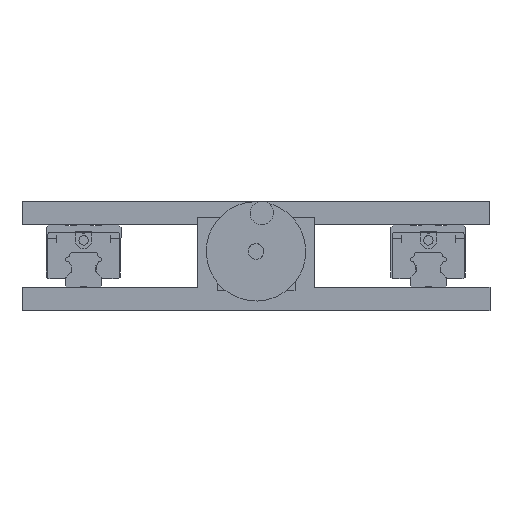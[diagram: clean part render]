
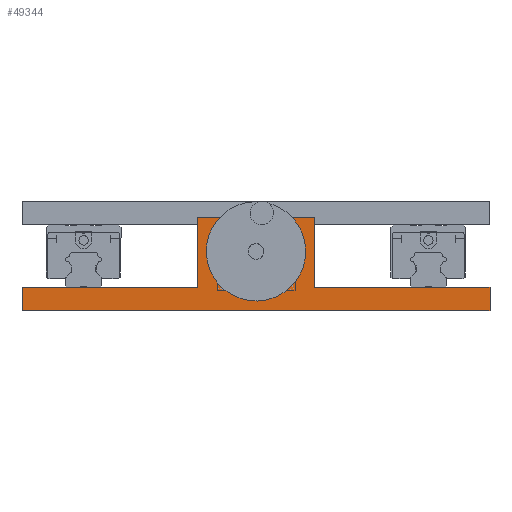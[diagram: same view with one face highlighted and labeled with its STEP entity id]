
A CAD part, front view. The second image highlights one B-rep face of the part: STEP entity #49344.
In plain terms, the highlighted planar face has unit normal (0, -1, 0).
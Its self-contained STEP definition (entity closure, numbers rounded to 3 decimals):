
#1210 = VECTOR ( 'NONE', #71519, 1000. ) ;
#1322 = VERTEX_POINT ( 'NONE', #2750 ) ;
#2750 = CARTESIAN_POINT ( 'NONE',  ( -150., -766.5, 15. ) ) ;
#3196 = AXIS2_PLACEMENT_3D ( 'NONE', #79654, #55064, #36056 ) ;
#3890 = DIRECTION ( 'NONE',  ( 0., 0., -1. ) ) ;
#5827 = EDGE_CURVE ( 'NONE', #1322, #76255, #12501, .T. ) ;
#7767 = ORIENTED_EDGE ( 'NONE', *, *, #10124, .F. ) ;
#9996 = CARTESIAN_POINT ( 'NONE',  ( 150., -766.5, 15. ) ) ;
#10124 = EDGE_CURVE ( 'NONE', #61709, #43456, #28256, .T. ) ;
#10243 = VECTOR ( 'NONE', #49462, 1000. ) ;
#10784 = CARTESIAN_POINT ( 'NONE',  ( -150., -766.5, 15. ) ) ;
#11312 = VECTOR ( 'NONE', #40007, 1000. ) ;
#11815 = VECTOR ( 'NONE', #3890, 1000. ) ;
#12501 = LINE ( 'NONE', #63637, #22404 ) ;
#12634 = VERTEX_POINT ( 'NONE', #66357 ) ;
#13929 = VECTOR ( 'NONE', #35284, 1000. ) ;
#14435 = CARTESIAN_POINT ( 'NONE',  ( 0., -766.5, 38. ) ) ;
#15072 = ORIENTED_EDGE ( 'NONE', *, *, #73457, .F. ) ;
#15170 = CARTESIAN_POINT ( 'NONE',  ( -150., -766.5, 0. ) ) ;
#16359 = VECTOR ( 'NONE', #68357, 1000. ) ;
#19518 = CARTESIAN_POINT ( 'NONE',  ( 150., -766.5, 15. ) ) ;
#19761 = CIRCLE ( 'NONE', #76611, 5. ) ;
#19776 = ORIENTED_EDGE ( 'NONE', *, *, #78251, .F. ) ;
#20257 = EDGE_LOOP ( 'NONE', ( #19776, #78768 ) ) ;
#21979 = FACE_OUTER_BOUND ( 'NONE', #71515, .T. ) ;
#22404 = VECTOR ( 'NONE', #63117, 1000. ) ;
#22422 = CARTESIAN_POINT ( 'NONE',  ( -150., -766.5, 15. ) ) ;
#22965 = DIRECTION ( 'NONE',  ( 1., 0., 0. ) ) ;
#24117 = LINE ( 'NONE', #50260, #10243 ) ;
#24859 = EDGE_CURVE ( 'NONE', #75430, #74891, #26570, .T. ) ;
#25190 = LINE ( 'NONE', #78121, #11312 ) ;
#26010 = VERTEX_POINT ( 'NONE', #44087 ) ;
#26361 = CARTESIAN_POINT ( 'NONE',  ( -37.5, -766.5, 15. ) ) ;
#26570 = CIRCLE ( 'NONE', #3196, 5. ) ;
#26691 = CARTESIAN_POINT ( 'NONE',  ( 0., -766.5, 33. ) ) ;
#26962 = VECTOR ( 'NONE', #22965, 1000. ) ;
#28160 = CARTESIAN_POINT ( 'NONE',  ( -150., -766.5, 0. ) ) ;
#28256 = LINE ( 'NONE', #61486, #16359 ) ;
#28964 = CARTESIAN_POINT ( 'NONE',  ( -37.5, -766.5, 60. ) ) ;
#35284 = DIRECTION ( 'NONE',  ( 1., 0., 0. ) ) ;
#36056 = DIRECTION ( 'NONE',  ( 0., 0., 1. ) ) ;
#39318 = ORIENTED_EDGE ( 'NONE', *, *, #63155, .F. ) ;
#39828 = DIRECTION ( 'NONE',  ( 0., -1., 0. ) ) ;
#40007 = DIRECTION ( 'NONE',  ( 0., 0., -1. ) ) ;
#40363 = DIRECTION ( 'NONE',  ( 0., 0., 1. ) ) ;
#40643 = DIRECTION ( 'NONE',  ( 0., 1., 0. ) ) ;
#41453 = LINE ( 'NONE', #9996, #11815 ) ;
#43456 = VERTEX_POINT ( 'NONE', #44453 ) ;
#43688 = VERTEX_POINT ( 'NONE', #15170 ) ;
#44087 = CARTESIAN_POINT ( 'NONE',  ( -37.5, -766.5, 60. ) ) ;
#44124 = CARTESIAN_POINT ( 'NONE',  ( 0., -766.5, 43. ) ) ;
#44453 = CARTESIAN_POINT ( 'NONE',  ( 37.5, -766.5, 15. ) ) ;
#47514 = LINE ( 'NONE', #28964, #13929 ) ;
#49344 = ADVANCED_FACE ( 'NONE', ( #59529, #21979 ), #72990, .F. ) ;
#49462 = DIRECTION ( 'NONE',  ( 0., 0., -1. ) ) ;
#50025 = CARTESIAN_POINT ( 'NONE',  ( 37.5, -766.5, 60. ) ) ;
#50260 = CARTESIAN_POINT ( 'NONE',  ( -150., -766.5, 15. ) ) ;
#50453 = VERTEX_POINT ( 'NONE', #19518 ) ;
#54977 = ORIENTED_EDGE ( 'NONE', *, *, #58161, .T. ) ;
#55064 = DIRECTION ( 'NONE',  ( 0., -1., 0. ) ) ;
#55731 = ORIENTED_EDGE ( 'NONE', *, *, #59474, .F. ) ;
#56563 = ORIENTED_EDGE ( 'NONE', *, *, #5827, .F. ) ;
#58161 = EDGE_CURVE ( 'NONE', #43688, #12634, #73391, .T. ) ;
#58627 = DIRECTION ( 'NONE',  ( 0., 0., 1. ) ) ;
#59474 = EDGE_CURVE ( 'NONE', #43456, #50453, #60573, .T. ) ;
#59529 = FACE_BOUND ( 'NONE', #20257, .T. ) ;
#60573 = LINE ( 'NONE', #10784, #26962 ) ;
#61486 = CARTESIAN_POINT ( 'NONE',  ( 37.5, -766.5, 60. ) ) ;
#61709 = VERTEX_POINT ( 'NONE', #50025 ) ;
#61903 = AXIS2_PLACEMENT_3D ( 'NONE', #22422, #40643, #40363 ) ;
#62386 = EDGE_CURVE ( 'NONE', #26010, #76255, #25190, .T. ) ;
#63117 = DIRECTION ( 'NONE',  ( 1., 0., 0. ) ) ;
#63155 = EDGE_CURVE ( 'NONE', #50453, #12634, #41453, .T. ) ;
#63637 = CARTESIAN_POINT ( 'NONE',  ( -150., -766.5, 15. ) ) ;
#66357 = CARTESIAN_POINT ( 'NONE',  ( 150., -766.5, 0. ) ) ;
#67727 = ORIENTED_EDGE ( 'NONE', *, *, #62386, .T. ) ;
#68357 = DIRECTION ( 'NONE',  ( 0., 0., -1. ) ) ;
#68756 = ORIENTED_EDGE ( 'NONE', *, *, #72248, .T. ) ;
#71515 = EDGE_LOOP ( 'NONE', ( #54977, #39318, #55731, #7767, #15072, #67727, #56563, #68756 ) ) ;
#71519 = DIRECTION ( 'NONE',  ( 1., 0., 0. ) ) ;
#72248 = EDGE_CURVE ( 'NONE', #1322, #43688, #24117, .T. ) ;
#72990 = PLANE ( 'NONE',  #61903 ) ;
#73391 = LINE ( 'NONE', #28160, #1210 ) ;
#73457 = EDGE_CURVE ( 'NONE', #26010, #61709, #47514, .T. ) ;
#74891 = VERTEX_POINT ( 'NONE', #44124 ) ;
#75430 = VERTEX_POINT ( 'NONE', #26691 ) ;
#76255 = VERTEX_POINT ( 'NONE', #26361 ) ;
#76611 = AXIS2_PLACEMENT_3D ( 'NONE', #14435, #39828, #58627 ) ;
#78121 = CARTESIAN_POINT ( 'NONE',  ( -37.5, -766.5, 60. ) ) ;
#78251 = EDGE_CURVE ( 'NONE', #74891, #75430, #19761, .T. ) ;
#78768 = ORIENTED_EDGE ( 'NONE', *, *, #24859, .F. ) ;
#79654 = CARTESIAN_POINT ( 'NONE',  ( 0., -766.5, 38. ) ) ;
